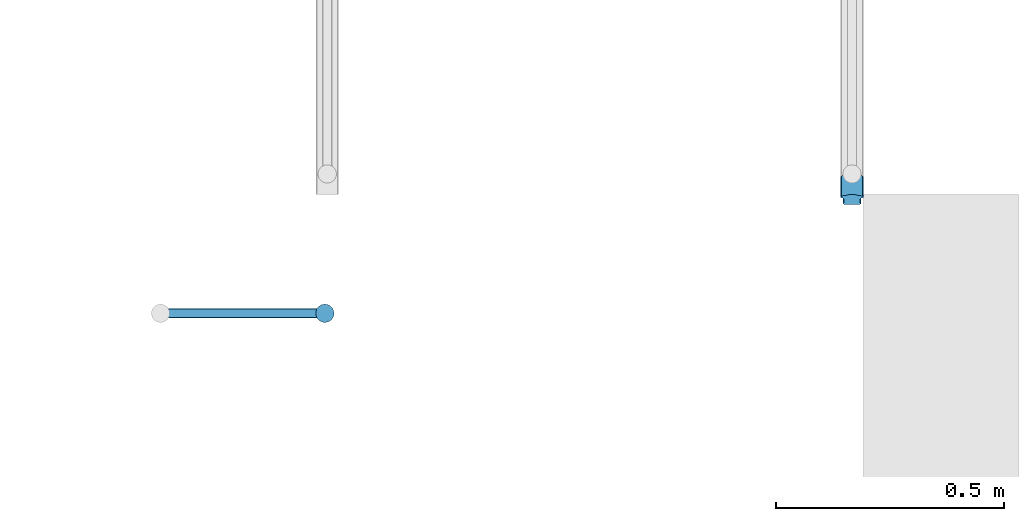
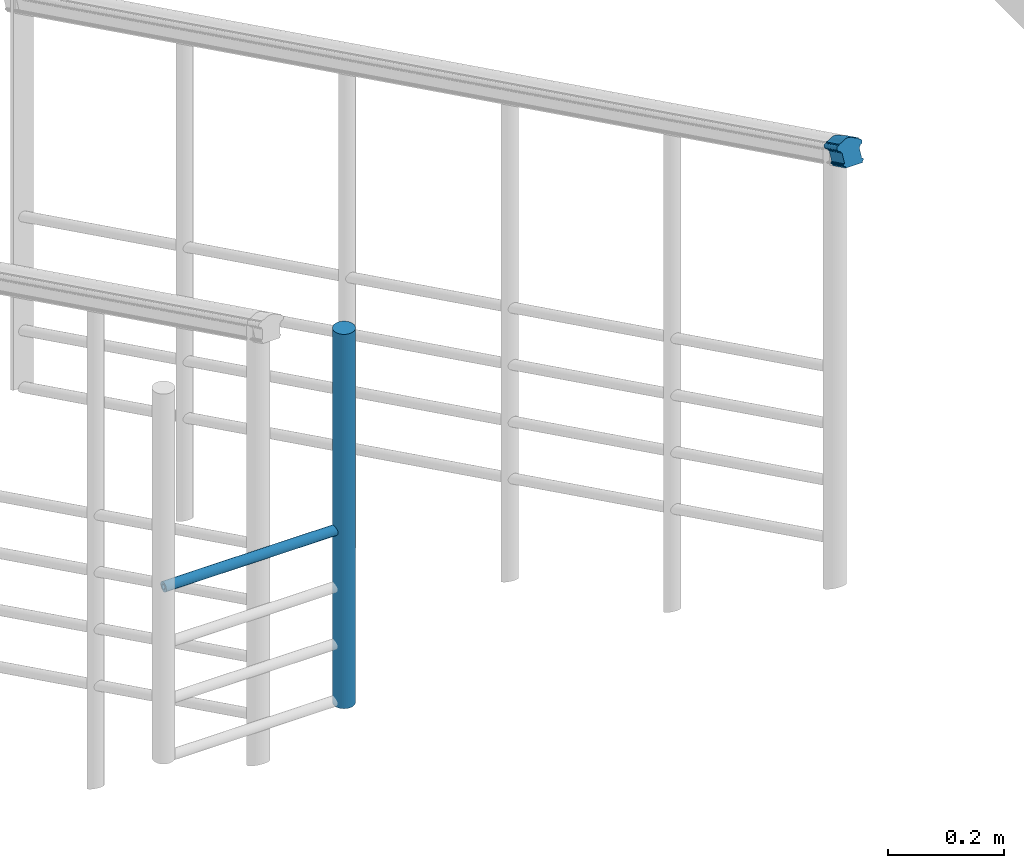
# One storey, part 14 of 16: 3 members, 2 elements without a shape of their own.
"""IFC2X3 building model written with IfcOpenShell, lengths in millimetres."""

from ifc_helpers import new_model, entity, si_unit, converted_unit, derived_unit, money_unit, direction, frame, origin_with_axes, place, context, subcontext, project, spatial, faceted_brep, material, type_object, element, aggregate, save


model = new_model("IFC2X3")

# Units and contexts
model_context = context("Model", 3, precision=0.01, world=origin_with_axes(), true_north=direction((0.0, 1.0)))
body_context = subcontext(model_context, "Body", "Model", "MODEL_VIEW")
ifc_project = project(units=[si_unit("LENGTHUNIT", "METRE", prefix="MILLI"), si_unit("AREAUNIT", "SQUARE_METRE"), si_unit("VOLUMEUNIT", "CUBIC_METRE"), converted_unit("PLANEANGLEUNIT", "DEGREE", entity("IfcPlaneAngleMeasure", 0.0174532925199), si_unit("PLANEANGLEUNIT", "RADIAN"), dimensions=[0, 0, 0, 0, 0, 0, 0]), si_unit("SOLIDANGLEUNIT", "STERADIAN"), money_unit("EUR"), converted_unit("TIMEUNIT", "Year", entity("IfcTimeMeasure", 31556926.0), si_unit("TIMEUNIT", "SECOND"), dimensions=[0, 0, 1, 0, 0, 0, 0]), si_unit("MASSUNIT", "GRAM", prefix="KILO"), si_unit("THERMODYNAMICTEMPERATUREUNIT", "DEGREE_CELSIUS"), si_unit("LUMINOUSINTENSITYUNIT", "LUMEN"), si_unit("ENERGYUNIT", "JOULE", prefix="MEGA"), derived_unit("THERMALCONDUCTANCEUNIT", [(si_unit("POWERUNIT", "WATT"), 1), (si_unit("LENGTHUNIT", "METRE"), -1), (si_unit("THERMODYNAMICTEMPERATUREUNIT", "KELVIN"), -1)]), derived_unit("SPECIFICHEATCAPACITYUNIT", [(si_unit("ENERGYUNIT", "JOULE"), 1), (si_unit("MASSUNIT", "GRAM", prefix="KILO"), -1), (si_unit("THERMODYNAMICTEMPERATUREUNIT", "KELVIN"), -1)]), derived_unit("MASSDENSITYUNIT", [(si_unit("MASSUNIT", "GRAM", prefix="KILO"), 1), (si_unit("VOLUMEUNIT", "CUBIC_METRE"), -1)])], contexts=[model_context])

# Site, building, storey
site_placement = place(None, origin_with_axes())
site = spatial("IfcSite", under=ifc_project, at=site_placement, Name="Paldiski mnt 245/1, Tallinn, Harjumaa", CompositionType="COMPLEX")
building_placement = place(site_placement, origin_with_axes())
building = spatial("IfcBuilding", under=site, at=building_placement, Name="RKAS Hoone üldnimetus (kasutust iseloomustav) -> IFC Project Manager -> SOLIBRI", CompositionType="ELEMENT")
storey_placement = place(building_placement, frame((0.0, 0.0, -1200.0), z_axis=(0.0, 0.0, 1.0), x_axis=(1.0, 0.0, 0.0)))
storey = spatial("IfcBuildingStorey", under=building, at=storey_placement, Name="Vundament", CompositionType="ELEMENT", Elevation=-1200.0)

# Railing, member
railing_type = type_object("IfcRailingType", Name="Railing Type", PredefinedType="NOTDEFINED")
railing_1_placement = place(storey_placement, frame((-45770.0, -10890.5008533, 3090.0), z_axis=(0.0, 0.0, 1.0), x_axis=(-0.773149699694, -0.634223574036, 0.0)))
railing_1 = element("IfcRailing", 1, at=railing_1_placement, inside=storey, type_object=railing_type, Name="PIIRE", PredefinedType="NOTDEFINED")
ifc_material_1 = material(Name="ET-06_Teras - Konstruktsioon")
member_type_1 = type_object("IfcMemberType", Name="IfcMember", PredefinedType="POST")
member_1_placement = place(railing_1_placement, frame((0.0, 0.0, -9.22744832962), z_axis=(0.0, 0.0, 1.0), x_axis=(-0.773149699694, 0.634223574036, 0.0)))
member_1 = element("IfcMember", 2, at=member_1_placement, type_object=member_type_1, material=ifc_material_1, Name="PIIRDE POST - 001", ObjectType="POST", context=body_context, shape_type="Brep", body=[
    faceted_brep([(20.0, 0.0, 0.0), (19.6961550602, 3.47296355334, 0.0), (19.6961550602, 3.47296355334, 789.22744833), (20.0, 0.0, 789.22744833), (19.6961550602, -3.47296355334, 0.0), (18.7938524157, -6.84040286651, 0.0), (17.3205080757, -10.0, 0.0), (15.3208888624, -12.8557521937, 0.0), (12.8557521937, -15.3208888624, 0.0), (10.0, -17.3205080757, 0.0), (6.84040286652, -18.7938524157, 0.0), (3.47296355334, -19.6961550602, 0.0), (0.0, -20.0, 0.0), (-3.47296355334, -19.6961550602, 0.0), (-6.84040286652, -18.7938524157, 0.0), (-10.0, -17.3205080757, 0.0), (-12.8557521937, -15.3208888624, 0.0), (-15.3208888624, -12.8557521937, 0.0), (-17.3205080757, -10.0, 0.0), (-18.7938524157, -6.84040286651, 0.0), (-19.6961550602, -3.47296355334, 0.0), (-20.0, 0.0, 0.0), (-19.6961550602, 3.47296355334, 0.0), (-18.7938524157, 6.84040286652, 0.0), (-17.3205080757, 10.0, 0.0), (-15.3208888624, 12.8557521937, 0.0), (-12.8557521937, 15.3208888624, 0.0), (-10.0, 17.3205080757, 0.0), (-6.84040286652, 18.7938524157, 0.0), (-3.47296355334, 19.6961550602, 0.0), (0.0, 20.0, 0.0), (3.47296355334, 19.6961550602, 0.0), (6.84040286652, 18.7938524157, 0.0), (10.0, 17.3205080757, 0.0), (12.8557521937, 15.3208888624, 0.0), (15.3208888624, 12.8557521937, 0.0), (17.3205080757, 10.0, 0.0), (18.7938524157, 6.84040286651, 0.0), (18.7938524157, 6.84040286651, 789.22744833), (17.3205080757, 10.0, 789.22744833), (15.3208888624, 12.8557521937, 789.22744833), (12.8557521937, 15.3208888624, 789.22744833), (10.0, 17.3205080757, 789.22744833), (6.84040286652, 18.7938524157, 789.22744833), (3.47296355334, 19.6961550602, 789.22744833), (0.0, 20.0, 789.22744833), (-3.47296355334, 19.6961550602, 789.22744833), (-6.84040286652, 18.7938524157, 789.22744833), (-10.0, 17.3205080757, 789.22744833), (-12.8557521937, 15.3208888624, 789.22744833), (-15.3208888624, 12.8557521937, 789.22744833), (-17.3205080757, 10.0, 789.22744833), (-18.7938524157, 6.84040286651, 789.22744833), (-19.6961550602, 3.47296355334, 789.22744833), (-20.0, 0.0, 789.22744833), (-19.6961550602, -3.47296355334, 789.22744833), (-18.7938524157, -6.84040286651, 789.22744833), (-17.3205080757, -10.0, 789.22744833), (-15.3208888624, -12.8557521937, 789.22744833), (-12.8557521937, -15.3208888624, 789.22744833), (-10.0, -17.3205080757, 789.22744833), (-6.84040286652, -18.7938524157, 789.22744833), (-3.47296355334, -19.6961550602, 789.22744833), (0.0, -20.0, 789.22744833), (3.47296355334, -19.6961550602, 789.22744833), (6.84040286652, -18.7938524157, 789.22744833), (10.0, -17.3205080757, 789.22744833), (12.8557521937, -15.3208888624, 789.22744833), (15.3208888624, -12.8557521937, 789.22744833), (17.3205080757, -10.0, 789.22744833), (18.7938524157, -6.84040286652, 789.22744833), (19.6961550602, -3.47296355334, 789.22744833)], [[[0, 1, 2, 3]], [[0, 4, 5, 6, 7, 8, 9, 10, 11, 12, 13, 14, 15, 16, 17, 18, 19, 20, 21, 22, 23, 24, 25, 26, 27, 28, 29, 30, 31, 32, 33, 34, 35, 36, 37, 1]], [[1, 37, 38, 2]], [[3, 2, 38, 39, 40, 41, 42, 43, 44, 45, 46, 47, 48, 49, 50, 51, 52, 53, 54, 55, 56, 57, 58, 59, 60, 61, 62, 63, 64, 65, 66, 67, 68, 69, 70, 71]], [[4, 0, 3, 71]], [[5, 4, 71, 70]], [[6, 5, 70, 69]], [[7, 6, 69, 68]], [[8, 7, 68, 67]], [[9, 8, 67, 66]], [[10, 9, 66, 65]], [[11, 10, 65, 64]], [[12, 11, 64, 63]], [[13, 12, 63, 62]], [[14, 13, 62, 61]], [[15, 14, 61, 60]], [[16, 15, 60, 59]], [[17, 16, 59, 58]], [[18, 17, 58, 57]], [[19, 18, 57, 56]], [[20, 19, 56, 55]], [[21, 20, 55, 54]], [[22, 21, 54, 53]], [[23, 22, 53, 52]], [[24, 23, 52, 51]], [[25, 24, 51, 50]], [[26, 25, 50, 49]], [[27, 26, 49, 48]], [[28, 27, 48, 47]], [[29, 28, 47, 46]], [[30, 29, 46, 45]], [[31, 30, 45, 44]], [[32, 31, 44, 43]], [[33, 32, 43, 42]], [[34, 33, 42, 41]], [[35, 34, 41, 40]], [[36, 35, 40, 39]], [[37, 36, 39, 38]]]),
])

railing_2_placement = place(storey_placement, frame((-44615.0, -7778.11378171, 1453.63636364), z_axis=(0.0, 0.0, 1.0), x_axis=(-0.773149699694, -0.634223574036, 0.0)))
railing_2 = element("IfcRailing", 3, at=railing_2_placement, inside=storey, type_object=railing_type, Name="PIIRE", PredefinedType="NOTDEFINED")
ifc_material_2 = material(Name="ET-07_Teras - Roostevaba")
member_type_2 = type_object("IfcMemberType", Name="IfcMember", PredefinedType="USERDEFINED")
member_2_placement = place(railing_2_placement, frame((0.0, 0.0, 0.0), z_axis=(0.0, 0.0, 1.0), x_axis=(-0.773149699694, 0.634223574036, 0.0)))
member_2 = element("IfcMember", 4, at=member_2_placement, type_object=member_type_2, material=ifc_material_2, Name="Piirde ülemise osa ots - 001", ObjectType="Rail", context=body_context, shape_type="Brep", body=[
    faceted_brep([(17.1348314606, -2829.16714231, 2187.87370239), (17.1348314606, -2827.9258906, 2190.39356589), (17.1348314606, -2872.77946094, 2212.48784632), (17.1348314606, -2874.02071265, 2209.96798281), (-17.1348314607, -2829.16714231, 2187.87370239), (-17.1348314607, -2827.9258906, 2190.39356589), (-17.3551690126, -2827.9216396, 2190.40219585), (-17.7891492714, -2827.88782544, 2190.47084193), (-18.2032484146, -2827.82122454, 2190.60604832), (-18.5848842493, -2827.72386055, 2190.80370683), (-18.9224609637, -2827.59869181, 2191.05781173), (-19.2057214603, -2827.44952152, 2191.36064215), (-19.4260590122, -2827.28088214, 2191.70299674), (-19.5767787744, -2827.09789769, 2192.07447324), (-19.6533012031, -2826.90612806, 2192.46378452), (-19.6533012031, -2826.71140007, 2192.85910156), (-19.5767787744, -2826.51963044, 2193.24841284), (-19.4260590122, -2826.33664599, 2193.61988934), (-19.2057214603, -2826.1680066, 2193.96224394), (-18.9224609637, -2826.01883631, 2194.26507435), (-18.5848842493, -2825.89366757, 2194.51917925), (-18.2032484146, -2825.79630358, 2194.71683776), (-17.7891492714, -2825.72970269, 2194.85204415), (-17.3551690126, -2825.69588853, 2194.92069023), (-17.1348314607, -2825.69163752, 2194.92932019), (-17.1348314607, -2817.49937624, 2211.56041931), (-17.144451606, -2817.40201225, 2211.75807783), (-17.2209740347, -2817.21024262, 2212.14738911), (-17.3716937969, -2817.02725817, 2212.51886561), (-17.5920313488, -2816.85861878, 2212.8612202), (-17.8752918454, -2816.70944849, 2213.16405062), (-18.2128685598, -2816.58427975, 2213.41815551), (-18.5945043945, -2816.48691576, 2213.61581403), (-19.0086035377, -2816.42031487, 2213.75102042), (-19.4425837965, -2816.38650071, 2213.8196665), (-19.6629213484, -2816.3822497, 2213.82829646), (-19.6629213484, -2815.38924834, 2215.84418726), (-20.1280784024, -2815.38027399, 2215.86240606), (-21.0442589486, -2815.30888855, 2216.00732557), (-21.9184682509, -2815.16828666, 2216.29276128), (-22.7241439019, -2814.96274045, 2216.71004037), (-23.4368058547, -2814.69849534, 2217.24648403), (-24.0348002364, -2814.38358028, 2217.88579269), (-24.4999572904, -2814.0275638, 2218.60854128), (-24.818143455, -2813.64126329, 2219.39276945), (-24.9796908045, -2813.2364163, 2220.21464882), (-24.9796908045, -2812.82532388, 2221.04920701), (-24.818143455, -2812.42047688, 2221.87108638), (-24.4999572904, -2812.03417637, 2222.65531455), (-24.0348002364, -2811.6781599, 2223.37806314), (-23.4368058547, -2811.36324484, 2224.0173718), (-22.7241439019, -2811.09899973, 2224.55381546), (-21.9184682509, -2810.89345352, 2224.97109455), (-21.0442589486, -2810.75285163, 2225.25653026), (-20.1280784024, -2810.68146618, 2225.40144977), (-19.6629213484, -2810.67249184, 2225.41966857), (-19.6629213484, -2809.70848553, 2227.37669653), (-19.1300013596, -2809.70463304, 2227.38451748), (-16.3105120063, -2809.55442628, 2227.68945203), (-13.5928839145, -2809.19015466, 2228.42895937), (-11.0596908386, -2808.6228864, 2229.58056995), (-10.6117353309, -2808.49526207, 2229.83965993), (-9.55056179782, -2808.20367602, 2230.4316084), (-6.53296902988, -2807.58188702, 2231.69390145), (-3.31687530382, -2807.20109222, 2232.46695248), (0.0, -2807.07286188, 2232.72727273), (3.31687530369, -2807.20109222, 2232.46695248), (6.53296902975, -2807.58188702, 2231.69390145), (9.55056179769, -2808.20367602, 2230.4316084), (10.6117353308, -2808.49526207, 2229.83965993), (13.5928839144, -2809.19015466, 2228.42895937), (16.3105120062, -2809.55442628, 2227.68945203), (19.1300013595, -2809.70463304, 2227.38451748), (19.6629213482, -2809.70848553, 2227.37669653), (19.6629213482, -2810.67249184, 2225.41966857), (20.1280784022, -2810.68146618, 2225.40144977), (21.0442589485, -2810.75285163, 2225.25653026), (21.9184682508, -2810.89345352, 2224.97109455), (22.7241439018, -2811.09899973, 2224.55381546), (23.4368058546, -2811.36324484, 2224.0173718), (24.0348002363, -2811.6781599, 2223.37806314), (24.4999572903, -2812.03417637, 2222.65531455), (24.8181434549, -2812.42047688, 2221.87108638), (24.9796908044, -2812.82532388, 2221.04920701), (24.9796908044, -2813.2364163, 2220.21464882), (24.8181434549, -2813.64126329, 2219.39276945), (24.4999572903, -2814.0275638, 2218.60854128), (24.0348002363, -2814.38358028, 2217.88579269), (23.4368058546, -2814.69849534, 2217.24648403), (22.7241439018, -2814.96274045, 2216.71004037), (21.9184682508, -2815.16828666, 2216.29276128), (21.0442589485, -2815.30888855, 2216.00732557), (20.1280784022, -2815.38027399, 2215.86240606), (19.6629213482, -2815.38924834, 2215.84418726), (19.6629213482, -2816.3822497, 2213.82829646), (19.4425837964, -2816.38650071, 2213.8196665), (19.0086035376, -2816.42031487, 2213.75102042), (18.5945043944, -2816.48691576, 2213.61581403), (18.2128685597, -2816.58427975, 2213.41815551), (17.8752918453, -2816.70944849, 2213.16405062), (17.5920313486, -2816.85861878, 2212.8612202), (17.3716937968, -2817.02725817, 2212.51886561), (17.2209740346, -2817.21024262, 2212.14738911), (17.1444516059, -2817.40201225, 2211.75807783), (17.1348314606, -2817.49937624, 2211.56041931), (17.1348314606, -2825.69163752, 2194.92932019), (17.3551690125, -2825.69588853, 2194.92069023), (17.7891492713, -2825.72970269, 2194.85204415), (18.2032484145, -2825.79630358, 2194.71683776), (18.5848842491, -2825.89366757, 2194.51917925), (18.9224609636, -2826.01883631, 2194.26507435), (19.2057214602, -2826.1680066, 2193.96224394), (19.4260590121, -2826.33664599, 2193.61988934), (19.5767787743, -2826.51963044, 2193.24841284), (19.653301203, -2826.71140007, 2192.85910156), (19.653301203, -2826.90612806, 2192.46378452), (19.5767787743, -2827.09789769, 2192.07447324), (19.4260590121, -2827.28088214, 2191.70299674), (19.2057214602, -2827.44952152, 2191.36064215), (18.9224609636, -2827.59869181, 2191.05781173), (18.5848842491, -2827.72386055, 2190.80370683), (18.2032484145, -2827.82122454, 2190.60604832), (17.7891492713, -2827.88782544, 2190.47084193), (17.3551690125, -2827.9216396, 2190.40219585), (17.3551690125, -2872.77520994, 2212.49647627), (17.7891492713, -2872.74139578, 2212.56512236), (18.2032484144, -2872.67479489, 2212.70032874), (18.5848842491, -2872.57743089, 2212.89798726), (18.9224609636, -2872.45226216, 2213.15209215), (19.2057214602, -2872.30309186, 2213.45492257), (19.4260590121, -2872.13445248, 2213.79727717), (19.5767787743, -2871.95146803, 2214.16875367), (19.653301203, -2871.7596984, 2214.55806495), (19.653301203, -2871.56497041, 2214.95338199), (19.5767787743, -2871.37320078, 2215.34269327), (19.4260590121, -2871.19021633, 2215.71416977), (19.2057214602, -2871.02157695, 2216.05652436), (18.9224609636, -2870.87240665, 2216.35935478), (18.5848842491, -2870.74723792, 2216.61345967), (18.2032484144, -2870.64987392, 2216.81111819), (17.7891492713, -2870.58327303, 2216.94632458), (17.3551690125, -2870.54945887, 2217.01497066), (17.1348314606, -2870.54520787, 2217.02360062), (17.1348314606, -2862.35294658, 2233.65469974), (17.1444516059, -2862.25558259, 2233.85235825), (17.2209740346, -2862.06381296, 2234.24166953), (17.3716937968, -2861.88082851, 2234.61314603), (17.5920313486, -2861.71218912, 2234.95550063), (17.8752918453, -2861.56301883, 2235.25833105), (18.2128685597, -2861.4378501, 2235.51243594), (18.5945043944, -2861.3404861, 2235.71009446), (19.0086035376, -2861.27388521, 2235.84530085), (19.4425837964, -2861.24007105, 2235.91394693), (19.6629213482, -2861.23582005, 2235.92257689), (19.6629213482, -2860.24281868, 2237.93846769), (20.1280784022, -2860.23384434, 2237.95668649), (21.0442589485, -2860.16245889, 2238.101606), (21.9184682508, -2860.021857, 2238.38704171), (22.7241439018, -2859.81631079, 2238.8043208), (23.4368058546, -2859.55206568, 2239.34076446), (24.0348002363, -2859.23715062, 2239.98007312), (24.4999572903, -2858.88113415, 2240.70282171), (24.8181434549, -2858.49483364, 2241.48704988), (24.9796908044, -2858.08998664, 2242.30892925), (24.9796908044, -2857.67889422, 2243.14348744), (24.8181434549, -2857.27404722, 2243.96536681), (24.4999572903, -2856.88774671, 2244.74959498), (24.0348002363, -2856.53173024, 2245.47234357), (23.4368058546, -2856.21681518, 2246.11165223), (22.7241439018, -2855.95257007, 2246.64809589), (21.9184682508, -2855.74702386, 2247.06537498), (21.0442589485, -2855.60642197, 2247.35081069), (20.1280784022, -2855.53503652, 2247.4957302), (19.6629213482, -2855.52606218, 2247.513949), (19.6629213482, -2854.56205588, 2249.47097696), (19.1300013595, -2854.55820338, 2249.47879791), (16.3105120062, -2854.40799662, 2249.78373246), (13.5928839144, -2854.04372501, 2250.5232398), (10.6117353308, -2853.34883241, 2251.93394035), (9.55056179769, -2853.05724636, 2252.52588883), (6.53296902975, -2852.43545736, 2253.78818188), (3.31687530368, -2852.05466256, 2254.56123291), (0.0, -2851.92643222, 2254.82155315), (-3.31687530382, -2852.05466256, 2254.56123291), (-6.53296902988, -2852.43545736, 2253.78818188), (-9.55056179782, -2853.05724636, 2252.52588883), (-10.6117353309, -2853.34883241, 2251.93394035), (-11.0596908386, -2853.47645674, 2251.67485037), (-13.5928839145, -2854.04372501, 2250.5232398), (-16.3105120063, -2854.40799662, 2249.78373246), (-19.1300013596, -2854.55820338, 2249.47879791), (-19.6629213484, -2854.56205588, 2249.47097696), (-19.6629213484, -2855.52606218, 2247.513949), (-20.1280784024, -2855.53503652, 2247.4957302), (-21.0442589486, -2855.60642197, 2247.35081069), (-21.9184682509, -2855.74702386, 2247.06537498), (-22.7241439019, -2855.95257007, 2246.64809589), (-23.4368058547, -2856.21681518, 2246.11165223), (-24.0348002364, -2856.53173024, 2245.47234357), (-24.4999572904, -2856.88774671, 2244.74959498), (-24.818143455, -2857.27404722, 2243.96536681), (-24.9796908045, -2857.67889422, 2243.14348744), (-24.9796908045, -2858.08998664, 2242.30892925), (-24.818143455, -2858.49483364, 2241.48704988), (-24.4999572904, -2858.88113415, 2240.70282171), (-24.0348002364, -2859.23715062, 2239.98007312), (-23.4368058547, -2859.55206568, 2239.34076446), (-22.7241439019, -2859.81631079, 2238.8043208), (-21.9184682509, -2860.021857, 2238.38704171), (-21.0442589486, -2860.16245889, 2238.101606), (-20.1280784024, -2860.23384434, 2237.95668649), (-19.6629213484, -2860.24281868, 2237.93846769), (-19.6629213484, -2861.23582005, 2235.92257689), (-19.4425837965, -2861.24007105, 2235.91394693), (-19.0086035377, -2861.27388521, 2235.84530085), (-18.5945043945, -2861.3404861, 2235.71009446), (-18.2128685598, -2861.4378501, 2235.51243594), (-17.8752918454, -2861.56301883, 2235.25833105), (-17.5920313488, -2861.71218912, 2234.95550063), (-17.3716937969, -2861.88082851, 2234.61314603), (-17.2209740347, -2862.06381296, 2234.24166953), (-17.144451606, -2862.25558259, 2233.85235825), (-17.1348314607, -2862.35294658, 2233.65469974), (-17.1348314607, -2870.54520787, 2217.02360062), (-17.3551690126, -2870.54945887, 2217.01497066), (-17.7891492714, -2870.58327303, 2216.94632458), (-18.2032484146, -2870.64987392, 2216.81111819), (-18.5848842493, -2870.74723792, 2216.61345967), (-18.9224609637, -2870.87240665, 2216.35935478), (-19.2057214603, -2871.02157695, 2216.05652436), (-19.4260590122, -2871.19021633, 2215.71416977), (-19.5767787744, -2871.37320078, 2215.34269327), (-19.6533012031, -2871.56497041, 2214.95338199), (-19.6533012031, -2871.7596984, 2214.55806495), (-19.5767787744, -2871.95146803, 2214.16875367), (-19.4260590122, -2872.13445248, 2213.79727717), (-19.2057214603, -2872.30309186, 2213.45492257), (-18.9224609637, -2872.45226216, 2213.15209215), (-18.5848842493, -2872.57743089, 2212.89798726), (-18.2032484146, -2872.67479489, 2212.70032874), (-17.7891492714, -2872.74139578, 2212.56512236), (-17.3551690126, -2872.77520994, 2212.49647627), (-17.1348314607, -2872.77946094, 2212.48784632), (-17.1348314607, -2874.02071265, 2209.96798281)], [[[0, 1, 2, 3]], [[0, 4, 5, 6, 7, 8, 9, 10, 11, 12, 13, 14, 15, 16, 17, 18, 19, 20, 21, 22, 23, 24, 25, 26, 27, 28, 29, 30, 31, 32, 33, 34, 35, 36, 37, 38, 39, 40, 41, 42, 43, 44, 45, 46, 47, 48, 49, 50, 51, 52, 53, 54, 55, 56, 57, 58, 59, 60, 61, 62, 63, 64, 65, 66, 67, 68, 69, 70, 71, 72, 73, 74, 75, 76, 77, 78, 79, 80, 81, 82, 83, 84, 85, 86, 87, 88, 89, 90, 91, 92, 93, 94, 95, 96, 97, 98, 99, 100, 101, 102, 103, 104, 105, 106, 107, 108, 109, 110, 111, 112, 113, 114, 115, 116, 117, 118, 119, 120, 121, 122, 123, 1]], [[1, 123, 124, 2]], [[3, 2, 124, 125, 126, 127, 128, 129, 130, 131, 132, 133, 134, 135, 136, 137, 138, 139, 140, 141, 142, 143, 144, 145, 146, 147, 148, 149, 150, 151, 152, 153, 154, 155, 156, 157, 158, 159, 160, 161, 162, 163, 164, 165, 166, 167, 168, 169, 170, 171, 172, 173, 174, 175, 176, 177, 178, 179, 180, 181, 182, 183, 184, 185, 186, 187, 188, 189, 190, 191, 192, 193, 194, 195, 196, 197, 198, 199, 200, 201, 202, 203, 204, 205, 206, 207, 208, 209, 210, 211, 212, 213, 214, 215, 216, 217, 218, 219, 220, 221, 222, 223, 224, 225, 226, 227, 228, 229, 230, 231, 232, 233, 234, 235, 236, 237, 238, 239, 240, 241, 242, 243]], [[4, 0, 3, 243]], [[5, 4, 243, 242]], [[6, 5, 242, 241]], [[7, 6, 241, 240]], [[8, 7, 240, 239]], [[9, 8, 239, 238]], [[10, 9, 238, 237]], [[11, 10, 237, 236]], [[12, 11, 236, 235]], [[13, 12, 235, 234]], [[14, 13, 234, 233]], [[15, 14, 233, 232]], [[16, 15, 232, 231]], [[17, 16, 231, 230]], [[18, 17, 230, 229]], [[19, 18, 229, 228]], [[20, 19, 228, 227]], [[21, 20, 227, 226]], [[22, 21, 226, 225]], [[23, 22, 225, 224]], [[24, 23, 224, 223]], [[25, 24, 223, 222]], [[26, 25, 222, 221]], [[27, 26, 221, 220]], [[28, 27, 220, 219]], [[29, 28, 219, 218]], [[30, 29, 218, 217]], [[31, 30, 217, 216]], [[32, 31, 216, 215]], [[33, 32, 215, 214]], [[34, 33, 214, 213]], [[35, 34, 213, 212]], [[36, 35, 212, 211]], [[37, 36, 211, 210]], [[38, 37, 210, 209]], [[39, 38, 209, 208]], [[40, 39, 208, 207]], [[41, 40, 207, 206]], [[42, 41, 206, 205]], [[43, 42, 205, 204]], [[44, 43, 204, 203]], [[45, 44, 203, 202]], [[46, 45, 202, 201]], [[47, 46, 201, 200]], [[48, 47, 200, 199]], [[49, 48, 199, 198]], [[50, 49, 198, 197]], [[51, 50, 197, 196]], [[52, 51, 196, 195]], [[53, 52, 195, 194]], [[54, 53, 194, 193]], [[55, 54, 193, 192]], [[56, 55, 192, 191]], [[57, 56, 191, 190]], [[58, 57, 190, 189]], [[59, 58, 189, 188]], [[60, 59, 188, 187]], [[61, 60, 187, 186]], [[62, 61, 186, 185]], [[63, 62, 185, 184]], [[64, 63, 184, 183]], [[65, 64, 183, 182]], [[66, 65, 182, 181]], [[67, 66, 181, 180]], [[68, 67, 180, 179]], [[69, 68, 179, 178]], [[70, 69, 178, 177]], [[71, 70, 177, 176]], [[72, 71, 176, 175]], [[73, 72, 175, 174]], [[74, 73, 174, 173]], [[75, 74, 173, 172]], [[76, 75, 172, 171]], [[77, 76, 171, 170]], [[78, 77, 170, 169]], [[79, 78, 169, 168]], [[80, 79, 168, 167]], [[81, 80, 167, 166]], [[82, 81, 166, 165]], [[83, 82, 165, 164]], [[84, 83, 164, 163]], [[85, 84, 163, 162]], [[86, 85, 162, 161]], [[87, 86, 161, 160]], [[88, 87, 160, 159]], [[89, 88, 159, 158]], [[90, 89, 158, 157]], [[91, 90, 157, 156]], [[92, 91, 156, 155]], [[93, 92, 155, 154]], [[94, 93, 154, 153]], [[95, 94, 153, 152]], [[96, 95, 152, 151]], [[97, 96, 151, 150]], [[98, 97, 150, 149]], [[99, 98, 149, 148]], [[100, 99, 148, 147]], [[101, 100, 147, 146]], [[102, 101, 146, 145]], [[103, 102, 145, 144]], [[104, 103, 144, 143]], [[105, 104, 143, 142]], [[106, 105, 142, 141]], [[107, 106, 141, 140]], [[108, 107, 140, 139]], [[109, 108, 139, 138]], [[110, 109, 138, 137]], [[111, 110, 137, 136]], [[112, 111, 136, 135]], [[113, 112, 135, 134]], [[114, 113, 134, 133]], [[115, 114, 133, 132]], [[116, 115, 132, 131]], [[117, 116, 131, 130]], [[118, 117, 130, 129]], [[119, 118, 129, 128]], [[120, 119, 128, 127]], [[121, 120, 127, 126]], [[122, 121, 126, 125]], [[123, 122, 125, 124]]]),
])
aggregate(railing_2, [member_2])

# Member
member_3_placement = place(railing_1_placement, frame((139.166945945, -114.160243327, 345.857864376), z_axis=(0.0, 0.0, 1.0), x_axis=(-0.773149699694, 0.634223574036, 0.0)))
member_3 = element("IfcMember", 5, at=member_3_placement, type_object=member_type_2, material=ifc_material_2, Name="Piirde alaosa - 001", ObjectType="Rail", context=body_context, shape_type="Brep", body=[
    faceted_brep([(180.0, -10.0, 14.1421356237), (180.0, -9.84807753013, 15.8786174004), (-180.0, -9.84807753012, 15.8786174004), (-180.0, -9.99999999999, 14.1421356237), (180.0, -9.84807753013, 12.4056538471), (180.0, -9.39692620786, 10.7219341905), (180.0, -8.66025403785, 9.14213562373), (180.0, -7.6604444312, 7.71425952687), (180.0, -6.42787609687, 6.48169119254), (180.0, -5.00000000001, 5.48188158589), (180.0, -3.42020143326, 4.74520941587), (180.0, -1.73648177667, 4.29405809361), (180.0, 0.0, 4.14213562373), (180.0, 1.73648177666, 4.29405809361), (180.0, 3.42020143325, 4.74520941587), (180.0, 5.0, 5.48188158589), (180.0, 6.42787609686, 6.48169119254), (180.0, 7.66044443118, 7.71425952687), (180.0, 8.66025403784, 9.14213562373), (180.0, 9.39692620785, 10.7219341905), (180.0, 9.84807753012, 12.4056538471), (180.0, 9.99999999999, 14.1421356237), (180.0, 9.84807753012, 15.8786174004), (180.0, 9.39692620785, 17.562337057), (180.0, 8.66025403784, 19.1421356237), (180.0, 7.66044443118, 20.5700117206), (180.0, 6.42787609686, 21.8025800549), (180.0, 5.0, 22.8023896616), (180.0, 3.42020143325, 23.5390618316), (180.0, 1.73648177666, 23.9902131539), (180.0, 0.0, 24.1421356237), (180.0, -1.73648177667, 23.9902131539), (180.0, -3.42020143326, 23.5390618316), (180.0, -5.00000000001, 22.8023896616), (180.0, -6.42787609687, 21.8025800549), (180.0, -7.6604444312, 20.5700117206), (180.0, -8.66025403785, 19.1421356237), (180.0, -9.39692620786, 17.562337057), (180.0, -5.5, 14.1421356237), (180.0, -5.41644264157, 15.0972006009), (180.0, -5.16830941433, 16.023246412), (180.0, -4.76313972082, 16.8921356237), (180.0, -4.21324443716, 17.677467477), (180.0, -3.53533185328, 18.3553800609), (180.0, -2.75000000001, 18.9052753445), (180.0, -1.8811107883, 19.3104450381), (180.0, -0.955064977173, 19.5585782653), (180.0, 0.0, 19.6421356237), (180.0, 0.955064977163, 19.5585782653), (180.0, 1.88111078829, 19.3104450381), (180.0, 2.75, 18.9052753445), (180.0, 3.53533185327, 18.3553800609), (180.0, 4.21324443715, 17.677467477), (180.0, 4.76313972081, 16.8921356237), (180.0, 5.16830941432, 16.023246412), (180.0, 5.41644264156, 15.0972006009), (180.0, 5.49999999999, 14.1421356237), (180.0, 5.41644264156, 13.1870706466), (180.0, 5.16830941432, 12.2610248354), (180.0, 4.76313972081, 11.3921356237), (180.0, 4.21324443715, 10.6068037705), (180.0, 3.53533185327, 9.92889118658), (180.0, 2.75, 9.37899590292), (180.0, 1.88111078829, 8.97382620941), (180.0, 0.955064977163, 8.72569298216), (180.0, 0.0, 8.64213562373), (180.0, -0.955064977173, 8.72569298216), (180.0, -1.8811107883, 8.97382620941), (180.0, -2.75000000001, 9.37899590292), (180.0, -3.53533185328, 9.92889118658), (180.0, -4.21324443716, 10.6068037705), (180.0, -4.76313972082, 11.3921356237), (180.0, -5.16830941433, 12.2610248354), (180.0, -5.41644264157, 13.1870706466), (-180.0, -9.39692620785, 17.562337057), (-180.0, -8.66025403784, 19.1421356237), (-180.0, -7.66044443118, 20.5700117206), (-180.0, -6.42787609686, 21.8025800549), (-180.0, -5.0, 22.8023896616), (-180.0, -3.42020143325, 23.5390618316), (-180.0, -1.73648177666, 23.9902131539), (-180.0, 0.0, 24.1421356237), (-180.0, 1.73648177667, 23.9902131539), (-180.0, 3.42020143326, 23.5390618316), (-180.0, 5.00000000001, 22.8023896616), (-180.0, 6.42787609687, 21.8025800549), (-180.0, 7.6604444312, 20.5700117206), (-180.0, 8.66025403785, 19.1421356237), (-180.0, 9.39692620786, 17.562337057), (-180.0, 9.84807753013, 15.8786174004), (-180.0, 10.0, 14.1421356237), (-180.0, 9.84807753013, 12.4056538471), (-180.0, 9.39692620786, 10.7219341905), (-180.0, 8.66025403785, 9.14213562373), (-180.0, 7.6604444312, 7.71425952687), (-180.0, 6.42787609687, 6.48169119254), (-180.0, 5.00000000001, 5.48188158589), (-180.0, 3.42020143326, 4.74520941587), (-180.0, 1.73648177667, 4.29405809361), (-180.0, 0.0, 4.14213562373), (-180.0, -1.73648177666, 4.29405809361), (-180.0, -3.42020143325, 4.74520941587), (-180.0, -5.0, 5.48188158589), (-180.0, -6.42787609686, 6.48169119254), (-180.0, -7.66044443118, 7.71425952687), (-180.0, -8.66025403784, 9.14213562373), (-180.0, -9.39692620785, 10.7219341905), (-180.0, -9.84807753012, 12.4056538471), (-180.0, -5.49999999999, 14.1421356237), (-180.0, -5.41644264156, 13.1870706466), (-180.0, -5.16830941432, 12.2610248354), (-180.0, -4.76313972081, 11.3921356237), (-180.0, -4.21324443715, 10.6068037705), (-180.0, -3.53533185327, 9.92889118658), (-180.0, -2.75, 9.37899590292), (-180.0, -1.88111078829, 8.97382620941), (-180.0, -0.955064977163, 8.72569298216), (-180.0, 0.0, 8.64213562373), (-180.0, 0.955064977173, 8.72569298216), (-180.0, 1.8811107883, 8.97382620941), (-180.0, 2.75000000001, 9.37899590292), (-180.0, 3.53533185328, 9.92889118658), (-180.0, 4.21324443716, 10.6068037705), (-180.0, 4.76313972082, 11.3921356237), (-180.0, 5.16830941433, 12.2610248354), (-180.0, 5.41644264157, 13.1870706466), (-180.0, 5.5, 14.1421356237), (-180.0, 5.41644264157, 15.0972006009), (-180.0, 5.16830941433, 16.023246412), (-180.0, 4.76313972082, 16.8921356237), (-180.0, 4.21324443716, 17.677467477), (-180.0, 3.53533185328, 18.3553800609), (-180.0, 2.75000000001, 18.9052753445), (-180.0, 1.8811107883, 19.3104450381), (-180.0, 0.955064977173, 19.5585782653), (-180.0, 0.0, 19.6421356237), (-180.0, -0.955064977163, 19.5585782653), (-180.0, -1.88111078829, 19.3104450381), (-180.0, -2.75, 18.9052753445), (-180.0, -3.53533185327, 18.3553800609), (-180.0, -4.21324443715, 17.677467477), (-180.0, -4.76313972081, 16.8921356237), (-180.0, -5.16830941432, 16.023246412), (-180.0, -5.41644264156, 15.0972006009)], [[[0, 1, 2, 3]], [[0, 4, 5, 6, 7, 8, 9, 10, 11, 12, 13, 14, 15, 16, 17, 18, 19, 20, 21, 22, 23, 24, 25, 26, 27, 28, 29, 30, 31, 32, 33, 34, 35, 36, 37, 1], [38, 39, 40, 41, 42, 43, 44, 45, 46, 47, 48, 49, 50, 51, 52, 53, 54, 55, 56, 57, 58, 59, 60, 61, 62, 63, 64, 65, 66, 67, 68, 69, 70, 71, 72, 73]], [[1, 37, 74, 2]], [[3, 2, 74, 75, 76, 77, 78, 79, 80, 81, 82, 83, 84, 85, 86, 87, 88, 89, 90, 91, 92, 93, 94, 95, 96, 97, 98, 99, 100, 101, 102, 103, 104, 105, 106, 107], [108, 109, 110, 111, 112, 113, 114, 115, 116, 117, 118, 119, 120, 121, 122, 123, 124, 125, 126, 127, 128, 129, 130, 131, 132, 133, 134, 135, 136, 137, 138, 139, 140, 141, 142, 143]], [[4, 0, 3, 107]], [[5, 4, 107, 106]], [[6, 5, 106, 105]], [[7, 6, 105, 104]], [[8, 7, 104, 103]], [[9, 8, 103, 102]], [[10, 9, 102, 101]], [[11, 10, 101, 100]], [[12, 11, 100, 99]], [[13, 12, 99, 98]], [[14, 13, 98, 97]], [[15, 14, 97, 96]], [[16, 15, 96, 95]], [[17, 16, 95, 94]], [[18, 17, 94, 93]], [[19, 18, 93, 92]], [[20, 19, 92, 91]], [[21, 20, 91, 90]], [[22, 21, 90, 89]], [[23, 22, 89, 88]], [[24, 23, 88, 87]], [[25, 24, 87, 86]], [[26, 25, 86, 85]], [[27, 26, 85, 84]], [[28, 27, 84, 83]], [[29, 28, 83, 82]], [[30, 29, 82, 81]], [[31, 30, 81, 80]], [[32, 31, 80, 79]], [[33, 32, 79, 78]], [[34, 33, 78, 77]], [[35, 34, 77, 76]], [[36, 35, 76, 75]], [[37, 36, 75, 74]], [[39, 38, 108, 143]], [[40, 39, 143, 142]], [[41, 40, 142, 141]], [[42, 41, 141, 140]], [[43, 42, 140, 139]], [[44, 43, 139, 138]], [[45, 44, 138, 137]], [[46, 45, 137, 136]], [[47, 46, 136, 135]], [[48, 47, 135, 134]], [[49, 48, 134, 133]], [[50, 49, 133, 132]], [[51, 50, 132, 131]], [[52, 51, 131, 130]], [[53, 52, 130, 129]], [[54, 53, 129, 128]], [[55, 54, 128, 127]], [[56, 55, 127, 126]], [[57, 56, 126, 125]], [[58, 57, 125, 124]], [[59, 58, 124, 123]], [[60, 59, 123, 122]], [[61, 60, 122, 121]], [[62, 61, 121, 120]], [[63, 62, 120, 119]], [[64, 63, 119, 118]], [[65, 64, 118, 117]], [[66, 65, 117, 116]], [[67, 66, 116, 115]], [[68, 67, 115, 114]], [[69, 68, 114, 113]], [[70, 69, 113, 112]], [[71, 70, 112, 111]], [[72, 71, 111, 110]], [[73, 72, 110, 109]], [[38, 73, 109, 108]]]),
])

aggregate(railing_1, [member_1, member_3])

save(model, "model.ifc")
